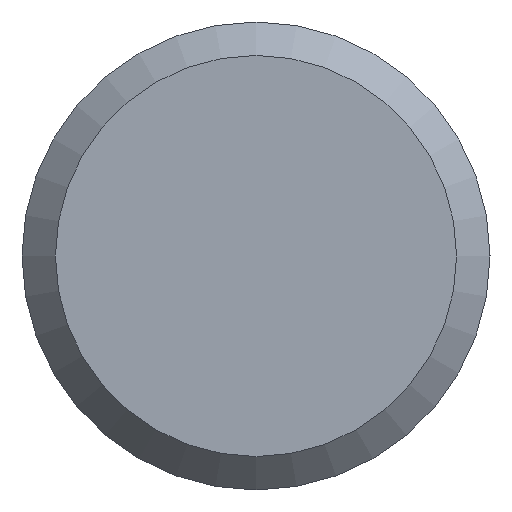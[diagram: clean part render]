
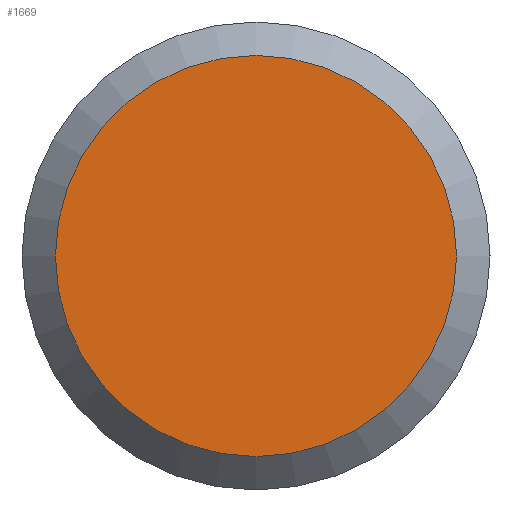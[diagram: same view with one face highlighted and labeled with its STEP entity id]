
A CAD part, left-side view. The second image highlights one B-rep face of the part: STEP entity #1669.
In plain terms, the highlighted planar face has unit normal (-1, 0, 0).
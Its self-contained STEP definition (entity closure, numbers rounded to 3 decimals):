
#594=PLANE('',#1535);
#636=ORIENTED_EDGE('',*,*,#848,.F.);
#738=CIRCLE('',#1534,6.);
#793=VERTEX_POINT('',#1370);
#848=EDGE_CURVE('',#793,#793,#738,.T.);
#911=EDGE_LOOP('',(#636));
#1021=FACE_BOUND('',#911,.T.);
#1146=DIRECTION('',(1.,0.,0.));
#1147=DIRECTION('',(0.,-6.,0.));
#1148=DIRECTION('',(-1.,0.,0.));
#1149=DIRECTION('',(0.,1.,0.));
#1370=CARTESIAN_POINT('',(0.,-6.,0.));
#1371=CARTESIAN_POINT('',(0.,0.,0.));
#1372=CARTESIAN_POINT('',(0.,0.,0.));
#1534=AXIS2_PLACEMENT_3D('',#1371,#1146,#1147);
#1535=AXIS2_PLACEMENT_3D('',#1372,#1148,#1149);
#1669=ADVANCED_FACE('',(#1021),#594,.T.);
